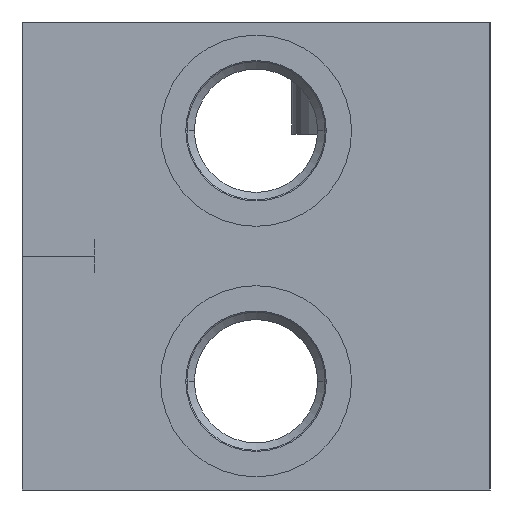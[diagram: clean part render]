
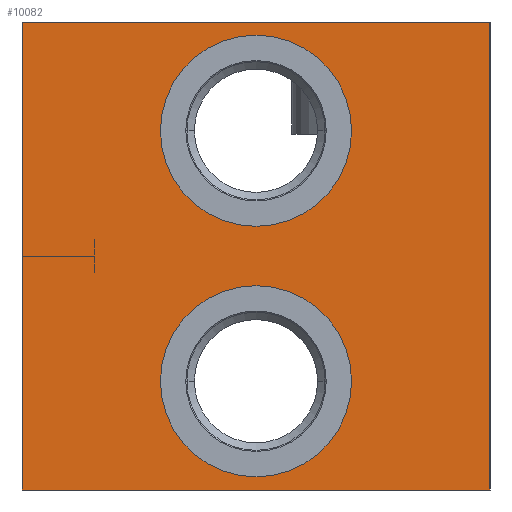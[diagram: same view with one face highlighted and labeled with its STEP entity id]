
A CAD part, left-side view. The second image highlights one B-rep face of the part: STEP entity #10082.
In plain terms, the highlighted planar face has unit normal (-1, 0, 0).
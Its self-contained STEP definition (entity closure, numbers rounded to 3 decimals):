
#30=DIRECTION('',(0.,-1.,0.));
#31=VECTOR('',#30,71.);
#32=CARTESIAN_POINT('',(0.,71.,0.));
#33=LINE('',#32,#31);
#323=DIRECTION('',(0.,0.,-1.));
#324=VECTOR('',#323,71.);
#325=CARTESIAN_POINT('',(0.,0.,0.));
#326=LINE('',#325,#324);
#2298=DIRECTION('',(0.,0.,-1.));
#2299=VECTOR('',#2298,71.);
#2300=CARTESIAN_POINT('',(0.,71.,0.));
#2301=LINE('',#2300,#2299);
#2305=CARTESIAN_POINT('',(0.,35.5,-54.5));
#2306=DIRECTION('',(1.,0.,0.));
#2307=DIRECTION('',(0.,-1.,0.));
#2308=AXIS2_PLACEMENT_3D('',#2305,#2306,#2307);
#2313=CARTESIAN_POINT('',(0.,35.5,-54.5));
#2314=DIRECTION('',(1.,0.,0.));
#2315=DIRECTION('',(0.,1.,0.));
#2316=AXIS2_PLACEMENT_3D('',#2313,#2314,#2315);
#2321=CARTESIAN_POINT('',(0.,35.5,-16.5));
#2322=DIRECTION('',(1.,0.,0.));
#2323=DIRECTION('',(0.,-1.,0.));
#2324=AXIS2_PLACEMENT_3D('',#2321,#2322,#2323);
#2329=CARTESIAN_POINT('',(0.,35.5,-16.5));
#2330=DIRECTION('',(1.,0.,0.));
#2331=DIRECTION('',(0.,1.,0.));
#2332=AXIS2_PLACEMENT_3D('',#2329,#2330,#2331);
#2358=DIRECTION('',(0.,-1.,0.));
#2359=VECTOR('',#2358,71.);
#2360=CARTESIAN_POINT('',(0.,71.,-71.));
#2361=LINE('',#2360,#2359);
#8491=CARTESIAN_POINT('',(0.,0.,0.));
#8493=VERTEX_POINT('',#8491);
#8497=CARTESIAN_POINT('',(0.,71.,0.));
#8498=VERTEX_POINT('',#8497);
#8499=CARTESIAN_POINT('',(0.,0.,-71.));
#8501=VERTEX_POINT('',#8499);
#8505=CARTESIAN_POINT('',(0.,71.,-71.));
#8506=VERTEX_POINT('',#8505);
#8535=CARTESIAN_POINT('',(0.,21.,-54.5));
#8536=CARTESIAN_POINT('',(0.,50.,-54.5));
#8537=VERTEX_POINT('',#8535);
#8538=VERTEX_POINT('',#8536);
#8551=CARTESIAN_POINT('',(0.,21.,-16.5));
#8552=CARTESIAN_POINT('',(0.,50.,-16.5));
#8553=VERTEX_POINT('',#8551);
#8554=VERTEX_POINT('',#8552);
#10058=CARTESIAN_POINT('',(0.,71.,0.));
#10059=DIRECTION('',(-1.,0.,0.));
#10060=DIRECTION('',(0.,-1.,0.));
#10061=AXIS2_PLACEMENT_3D('',#10058,#10059,#10060);
#10062=PLANE('',#10061);
#10063=ORIENTED_EDGE('',*,*,#9474,.T.);
#10064=ORIENTED_EDGE('',*,*,#9602,.T.);
#10066=ORIENTED_EDGE('',*,*,#10065,.F.);
#10067=ORIENTED_EDGE('',*,*,#9689,.F.);
#10068=EDGE_LOOP('',(#10063,#10064,#10066,#10067));
#10069=FACE_OUTER_BOUND('',#10068,.F.);
#10071=ORIENTED_EDGE('',*,*,#10070,.F.);
#10073=ORIENTED_EDGE('',*,*,#10072,.F.);
#10074=EDGE_LOOP('',(#10071,#10073));
#10075=FACE_BOUND('',#10074,.F.);
#10077=ORIENTED_EDGE('',*,*,#10076,.F.);
#10079=ORIENTED_EDGE('',*,*,#10078,.F.);
#10080=EDGE_LOOP('',(#10077,#10079));
#10081=FACE_BOUND('',#10080,.F.);
#2309=CIRCLE('',#2308,14.5);
#2317=CIRCLE('',#2316,14.5);
#2325=CIRCLE('',#2324,14.5);
#2333=CIRCLE('',#2332,14.5);
#9474=EDGE_CURVE('',#8498,#8493,#33,.T.);
#9602=EDGE_CURVE('',#8493,#8501,#326,.T.);
#9689=EDGE_CURVE('',#8498,#8506,#2301,.T.);
#10065=EDGE_CURVE('',#8506,#8501,#2361,.T.);
#10070=EDGE_CURVE('',#8537,#8538,#2309,.T.);
#10072=EDGE_CURVE('',#8538,#8537,#2317,.T.);
#10076=EDGE_CURVE('',#8553,#8554,#2325,.T.);
#10078=EDGE_CURVE('',#8554,#8553,#2333,.T.);
#10082=ADVANCED_FACE('',(#10069,#10075,#10081),#10062,.T.);
